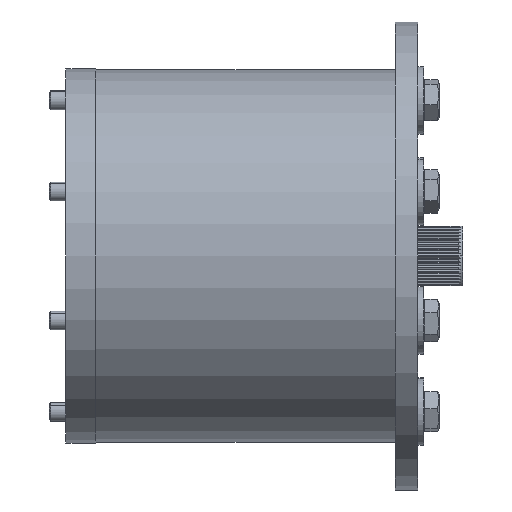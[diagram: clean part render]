
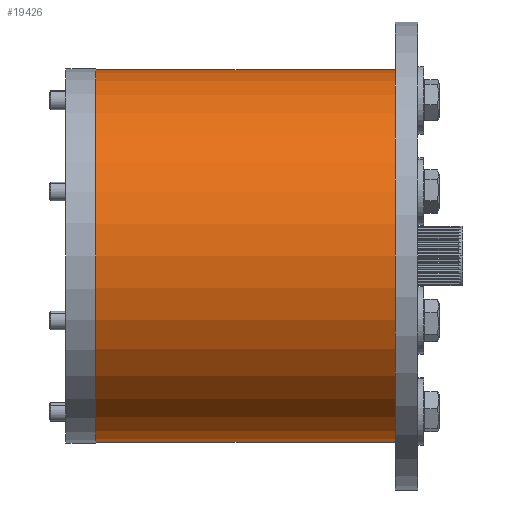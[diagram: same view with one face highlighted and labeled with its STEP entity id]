
A CAD part, left-side view. The second image highlights one B-rep face of the part: STEP entity #19426.
In plain terms, the highlighted cylindrical face has radius 49.75 mm (diameter 99.5 mm), a partial arc.
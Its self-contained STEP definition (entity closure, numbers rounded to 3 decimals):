
#817 = CARTESIAN_POINT ( 'NONE',  ( 0., 40., 49.75 ) ) ;
#956 = DIRECTION ( 'NONE',  ( 0., -1., 0. ) ) ;
#1072 = CYLINDRICAL_SURFACE ( 'NONE', #20513, 49.75 ) ;
#1227 = EDGE_CURVE ( 'NONE', #4054, #15146, #22473, .T. ) ;
#1534 = ORIENTED_EDGE ( 'NONE', *, *, #1227, .T. ) ;
#2041 = CARTESIAN_POINT ( 'NONE',  ( 0., 40., 0. ) ) ;
#3809 = FACE_OUTER_BOUND ( 'NONE', #10698, .T. ) ;
#3983 = CARTESIAN_POINT ( 'NONE',  ( 0., 40., -49.75 ) ) ;
#4054 = VERTEX_POINT ( 'NONE', #15361 ) ;
#4155 = AXIS2_PLACEMENT_3D ( 'NONE', #2041, #10547, #12668 ) ;
#4259 = DIRECTION ( 'NONE',  ( 0., 0., -1. ) ) ;
#4379 = ORIENTED_EDGE ( 'NONE', *, *, #17461, .F. ) ;
#5031 = CARTESIAN_POINT ( 'NONE',  ( 0., -40., 49.75 ) ) ;
#5523 = VERTEX_POINT ( 'NONE', #817 ) ;
#5883 = LINE ( 'NONE', #18857, #12241 ) ;
#8123 = VECTOR ( 'NONE', #8128, 1000. ) ;
#8128 = DIRECTION ( 'NONE',  ( 0., -1., 0. ) ) ;
#8349 = DIRECTION ( 'NONE',  ( 0., 1., 0. ) ) ;
#10547 = DIRECTION ( 'NONE',  ( 0., 1., 0. ) ) ;
#10698 = EDGE_LOOP ( 'NONE', ( #4379, #20787, #12321, #1534 ) ) ;
#10701 = DIRECTION ( 'NONE',  ( 0., 0., 1. ) ) ;
#12241 = VECTOR ( 'NONE', #13312, 1000. ) ;
#12321 = ORIENTED_EDGE ( 'NONE', *, *, #20887, .T. ) ;
#12668 = DIRECTION ( 'NONE',  ( 0., 0., 1. ) ) ;
#13312 = DIRECTION ( 'NONE',  ( 0., -1., 0. ) ) ;
#13864 = EDGE_CURVE ( 'NONE', #20149, #5523, #22213, .T. ) ;
#14196 = AXIS2_PLACEMENT_3D ( 'NONE', #17893, #8349, #10701 ) ;
#15146 = VERTEX_POINT ( 'NONE', #5031 ) ;
#15355 = CARTESIAN_POINT ( 'NONE',  ( 0., 40., 0. ) ) ;
#15361 = CARTESIAN_POINT ( 'NONE',  ( 0., -40., -49.75 ) ) ;
#17461 = EDGE_CURVE ( 'NONE', #5523, #15146, #5883, .T. ) ;
#17893 = CARTESIAN_POINT ( 'NONE',  ( 0., -40., 0. ) ) ;
#18737 = LINE ( 'NONE', #19095, #8123 ) ;
#18857 = CARTESIAN_POINT ( 'NONE',  ( 0., 40., 49.75 ) ) ;
#19095 = CARTESIAN_POINT ( 'NONE',  ( 0., 40., -49.75 ) ) ;
#19426 = ADVANCED_FACE ( 'NONE', ( #3809 ), #1072, .T. ) ;
#20149 = VERTEX_POINT ( 'NONE', #3983 ) ;
#20513 = AXIS2_PLACEMENT_3D ( 'NONE', #15355, #956, #4259 ) ;
#20787 = ORIENTED_EDGE ( 'NONE', *, *, #13864, .F. ) ;
#20887 = EDGE_CURVE ( 'NONE', #20149, #4054, #18737, .T. ) ;
#22213 = CIRCLE ( 'NONE', #4155, 49.75 ) ;
#22473 = CIRCLE ( 'NONE', #14196, 49.75 ) ;
